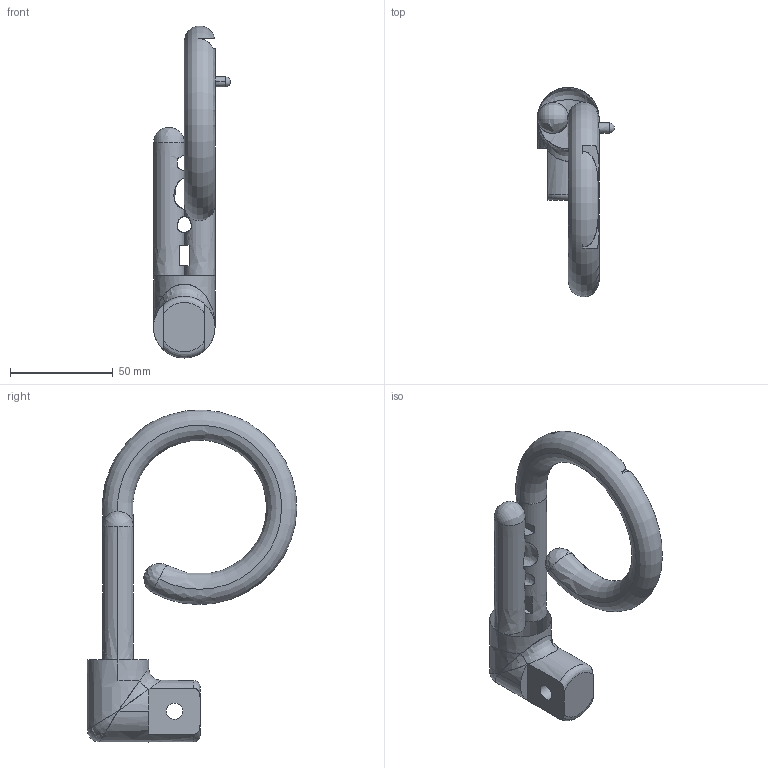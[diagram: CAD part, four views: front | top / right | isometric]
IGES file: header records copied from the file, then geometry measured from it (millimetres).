
Start section: START RECORD GO HERE.
Global section: file name: Arm.igs; native system: DASSAULT SYSTEMES CATIA V5 R20 - www.3ds.com; preprocessor: CATIA Version 5 Release 20 ; author: user; organization: SHWETANK; date: 20170113.185152; units: millimetre
Bounding box: 37.5 x 102.17 x 161.78 mm (x, y, z)
Surface area: 25780.3 mm2 (no closed solid volume)
Topology: 0 solids, 0 shells, 99 faces, 569 edges, 560 vertices
Faces by surface type: plane 68, revolution 24, extrusion 4, bspline 3
